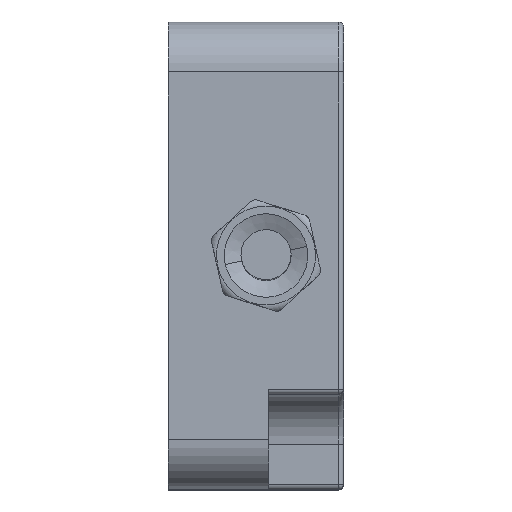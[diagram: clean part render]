
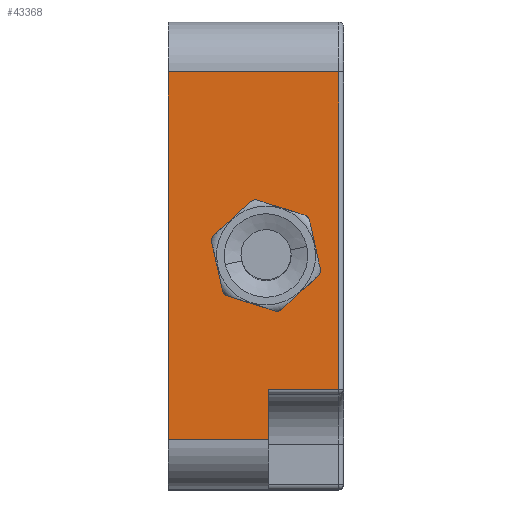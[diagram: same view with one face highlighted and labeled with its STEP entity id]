
A CAD part, top view. The second image highlights one B-rep face of the part: STEP entity #43368.
In plain terms, the highlighted planar face has unit normal (0, 0, 1).
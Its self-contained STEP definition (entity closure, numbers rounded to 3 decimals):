
#2636 = VERTEX_POINT ( 'NONE', #9827 ) ;
#3008 = EDGE_CURVE ( 'NONE', #60114, #62136, #60056, .T. ) ;
#3364 = ORIENTED_EDGE ( 'NONE', *, *, #33303, .T. ) ;
#3670 = AXIS2_PLACEMENT_3D ( 'NONE', #54787, #15302, #9886 ) ;
#3969 = DIRECTION ( 'NONE',  ( 1., 0., 0. ) ) ;
#5834 = EDGE_CURVE ( 'NONE', #59272, #27308, #34607, .T. ) ;
#5945 = CARTESIAN_POINT ( 'NONE',  ( 0., 14., 14. ) ) ;
#7039 = LINE ( 'NONE', #62800, #22094 ) ;
#7133 = AXIS2_PLACEMENT_3D ( 'NONE', #18080, #12646, #11918 ) ;
#8186 = VECTOR ( 'NONE', #3969, 1000. ) ;
#9827 = CARTESIAN_POINT ( 'NONE',  ( 8.35, 0., 14. ) ) ;
#9886 = DIRECTION ( 'NONE',  ( -1., 0., 0. ) ) ;
#9949 = ORIENTED_EDGE ( 'NONE', *, *, #16289, .T. ) ;
#10581 = CIRCLE ( 'NONE', #30304, 2.5 ) ;
#11760 = DIRECTION ( 'NONE',  ( 0., 1., 0. ) ) ;
#11918 = DIRECTION ( 'NONE',  ( 1., 0., 0. ) ) ;
#12646 = DIRECTION ( 'NONE',  ( 0., 0., 1. ) ) ;
#12877 = CARTESIAN_POINT ( 'NONE',  ( 0., 11., 14. ) ) ;
#12950 = ORIENTED_EDGE ( 'NONE', *, *, #39489, .T. ) ;
#13123 = CARTESIAN_POINT ( 'NONE',  ( 10.2, 11., 14. ) ) ;
#14099 = LINE ( 'NONE', #52874, #8186 ) ;
#15257 = VECTOR ( 'NONE', #16936, 1000. ) ;
#15302 = DIRECTION ( 'NONE',  ( 0., 0., -1. ) ) ;
#15459 = VECTOR ( 'NONE', #28066, 1000. ) ;
#15669 = PLANE ( 'NONE',  #3670 ) ;
#16289 = EDGE_CURVE ( 'NONE', #17385, #59272, #7039, .T. ) ;
#16936 = DIRECTION ( 'NONE',  ( 0., -1., 0. ) ) ;
#17385 = VERTEX_POINT ( 'NONE', #13123 ) ;
#18080 = CARTESIAN_POINT ( 'NONE',  ( 5.85, 0., 14. ) ) ;
#18749 = DIRECTION ( 'NONE',  ( 0., 0., 1. ) ) ;
#21271 = LINE ( 'NONE', #48464, #37002 ) ;
#22094 = VECTOR ( 'NONE', #29156, 1000. ) ;
#22759 = VECTOR ( 'NONE', #11760, 1000. ) ;
#23213 = CARTESIAN_POINT ( 'NONE',  ( 6., -11., 14. ) ) ;
#23349 = LINE ( 'NONE', #33526, #22759 ) ;
#25317 = CARTESIAN_POINT ( 'NONE',  ( 10.2, -8., 14. ) ) ;
#26169 = ORIENTED_EDGE ( 'NONE', *, *, #61399, .F. ) ;
#26244 = ORIENTED_EDGE ( 'NONE', *, *, #3008, .F. ) ;
#27308 = VERTEX_POINT ( 'NONE', #69892 ) ;
#28066 = DIRECTION ( 'NONE',  ( 0., -1., 0. ) ) ;
#29156 = DIRECTION ( 'NONE',  ( -1., 0., 0. ) ) ;
#30304 = AXIS2_PLACEMENT_3D ( 'NONE', #34740, #18749, #40154 ) ;
#33303 = EDGE_CURVE ( 'NONE', #48517, #17385, #23349, .T. ) ;
#33526 = CARTESIAN_POINT ( 'NONE',  ( 10.2, 11., 14. ) ) ;
#34607 = LINE ( 'NONE', #5945, #15459 ) ;
#34740 = CARTESIAN_POINT ( 'NONE',  ( 5.85, 0., 14. ) ) ;
#36837 = EDGE_CURVE ( 'NONE', #27308, #62136, #21271, .T. ) ;
#37002 = VECTOR ( 'NONE', #37968, 1000. ) ;
#37968 = DIRECTION ( 'NONE',  ( 1., 0., 0. ) ) ;
#38381 = CIRCLE ( 'NONE', #7133, 2.5 ) ;
#39489 = EDGE_CURVE ( 'NONE', #60114, #48517, #14099, .T. ) ;
#40154 = DIRECTION ( 'NONE',  ( 1., 0., 0. ) ) ;
#40790 = EDGE_CURVE ( 'NONE', #2636, #40793, #10581, .T. ) ;
#40793 = VERTEX_POINT ( 'NONE', #62928 ) ;
#43055 = ORIENTED_EDGE ( 'NONE', *, *, #5834, .T. ) ;
#43368 = ADVANCED_FACE ( 'NONE', ( #49360, #65974 ), #15669, .F. ) ;
#44473 = CARTESIAN_POINT ( 'NONE',  ( 6., -8.3, 14. ) ) ;
#46903 = ORIENTED_EDGE ( 'NONE', *, *, #36837, .T. ) ;
#48464 = CARTESIAN_POINT ( 'NONE',  ( 10.5, -11., 14. ) ) ;
#48517 = VERTEX_POINT ( 'NONE', #25317 ) ;
#49360 = FACE_BOUND ( 'NONE', #66406, .T. ) ;
#52874 = CARTESIAN_POINT ( 'NONE',  ( 10.5, -8., 14. ) ) ;
#54047 = ORIENTED_EDGE ( 'NONE', *, *, #40790, .F. ) ;
#54787 = CARTESIAN_POINT ( 'NONE',  ( 10.5, 14., 14. ) ) ;
#59272 = VERTEX_POINT ( 'NONE', #12877 ) ;
#60056 = LINE ( 'NONE', #44473, #15257 ) ;
#60114 = VERTEX_POINT ( 'NONE', #68832 ) ;
#61399 = EDGE_CURVE ( 'NONE', #40793, #2636, #38381, .T. ) ;
#62136 = VERTEX_POINT ( 'NONE', #23213 ) ;
#62800 = CARTESIAN_POINT ( 'NONE',  ( 10.5, 11., 14. ) ) ;
#62928 = CARTESIAN_POINT ( 'NONE',  ( 3.35, 0., 14. ) ) ;
#63949 = EDGE_LOOP ( 'NONE', ( #12950, #3364, #9949, #43055, #46903, #26244 ) ) ;
#65974 = FACE_OUTER_BOUND ( 'NONE', #63949, .T. ) ;
#66406 = EDGE_LOOP ( 'NONE', ( #54047, #26169 ) ) ;
#68832 = CARTESIAN_POINT ( 'NONE',  ( 6., -8., 14. ) ) ;
#69892 = CARTESIAN_POINT ( 'NONE',  ( 0., -11., 14. ) ) ;
